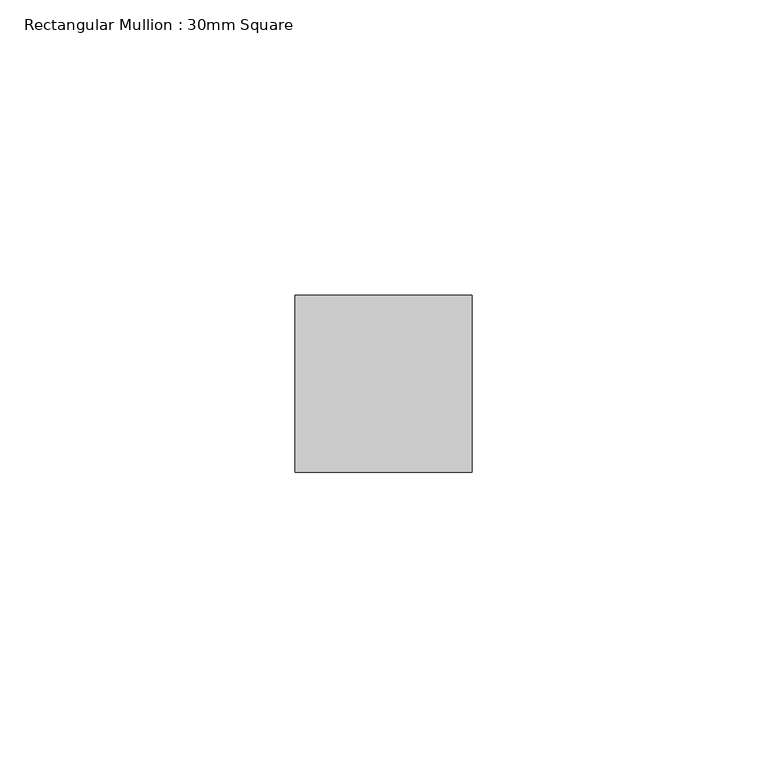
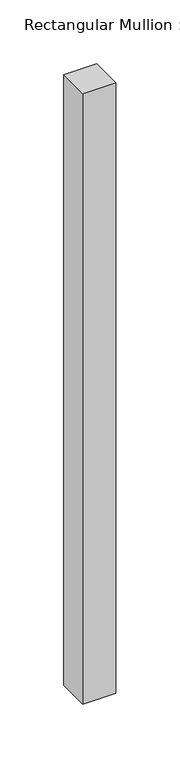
"""IFC4 building model written with IfcOpenShell, lengths in millimetres: member geometry, Rectangular Mullion : 30mm Square."""

from ifc_helpers import new_model, si_unit, frame, origin, place, context, project, spatial, polyline, outline, extrude, source, transform, mapped, element, save


def rectangular_mullion_30mm_square_dfaa4696(model_context):
    return source(origin(), model_context, "Body", "SweptSolid", [
        extrude(outline(polyline([(0.0, 15.0), (0.0, -15.0), (-30.0, -15.0), (-30.0, 15.0), (0.0, 15.0)])), frame((0.0, 0.0, -585.1015074), z_axis=(0.0, 0.0, 1.0), x_axis=(1.0, 0.0, 0.0)), (0.0, 0.0, 1.0), 585.1015074),
    ])


if __name__ == "__main__":
    model = new_model("IFC4")
    model_context = context("Model", 3, world=origin())
    ifc_project = project(units=[si_unit("LENGTHUNIT", "METRE", prefix="MILLI")], contexts=[model_context])
    site = spatial("IfcSite", under=ifc_project)
    building = spatial("IfcBuilding", under=site)
    placement = place(None, origin())
    rectangular_mullion_30mm_square_shape = rectangular_mullion_30mm_square_dfaa4696(model_context)
    element("IfcMember", 1, ObjectType="Rectangular Mullion : 30mm Square", at=placement, inside=building, context=model_context, shape_type="MappedRepresentation", body=[
        mapped(rectangular_mullion_30mm_square_shape, transform((0.0, 0.0, 0.0), x_axis=(1.0, 0.0, 0.0), y_axis=(0.0, 1.0, 0.0), z_axis=(0.0, 0.0, 1.0))),
    ])
    save(model, "model.ifc")
